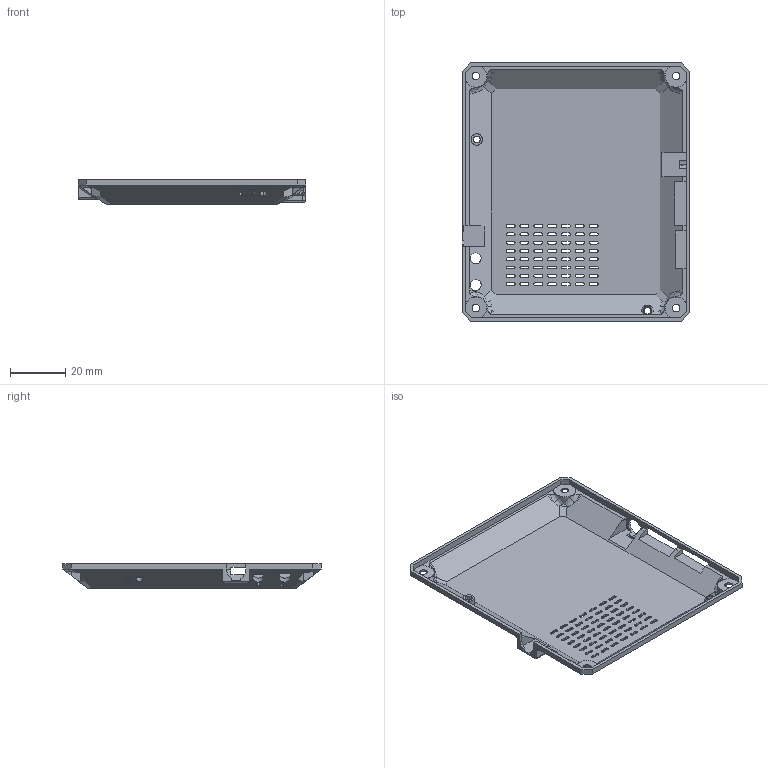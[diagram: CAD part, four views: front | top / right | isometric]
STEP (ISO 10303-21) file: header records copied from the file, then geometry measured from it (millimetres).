
FILE_DESCRIPTION (( 'STEP AP214' ), '1' );
FILE_NAME ('edit Pico _ Cell 4G bottom.STEP', '2024-04-19T07:42:57', ( 'kunal302@outlook.com' ), ( '' ), 'SwSTEP 2.0', 'SolidWorks 2022', '' );
FILE_SCHEMA (( 'AUTOMOTIVE_DESIGN' ));
Length unit declared in the file: millimetre
Products named in the file (1): edit Pico _ Cell 4G bottom
Bounding box: 82.33 x 93.23 x 9 mm (x, y, z)
Volume: 9708.8 mm3; surface area: 18794.7 mm2
Topology: 1 solids, 1 shells, 1369 faces, 3654 edges, 2343 vertices
Faces by surface type: plane 633, cylinder 349, bspline 272, torus 115
Entity records: 54485 total; most frequent: CARTESIAN_POINT 21802, ORIENTED_EDGE 7306, DIRECTION 5912, EDGE_CURVE 3653, VERTEX_POINT 2343, LINE 2222, VECTOR 2222, AXIS2_PLACEMENT_3D 1845
